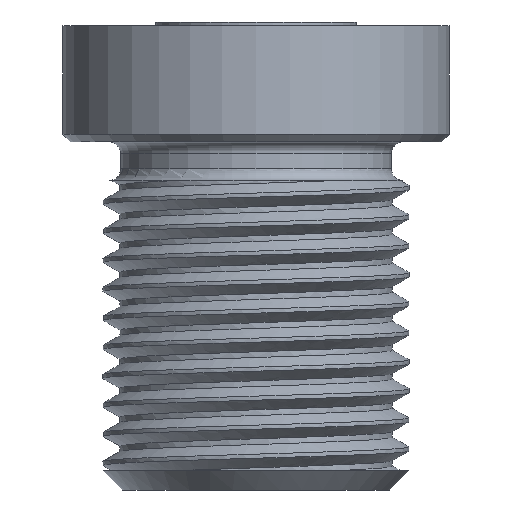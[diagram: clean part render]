
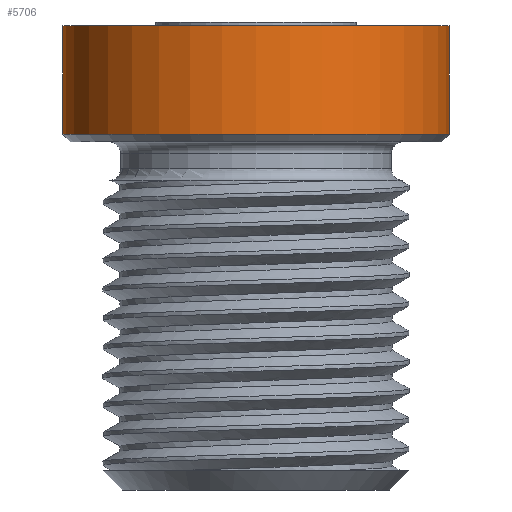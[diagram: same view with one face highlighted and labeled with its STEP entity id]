
A CAD part, front view. The second image highlights one B-rep face of the part: STEP entity #5706.
In plain terms, the highlighted cylindrical face has radius 5 mm (diameter 10 mm), a full revolution.
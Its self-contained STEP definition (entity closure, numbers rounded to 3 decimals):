
#368=FACE_OUTER_BOUND('',#698,.T.);
#698=EDGE_LOOP('',(#3988,#3989,#3990,#3991));
#1026=CIRCLE('',#6055,5.);
#1029=CIRCLE('',#6060,5.);
#1567=LINE('',#8507,#1950);
#1950=VECTOR('',#6251,5.);
#2364=VERTEX_POINT('',#8496);
#2367=VERTEX_POINT('',#8505);
#2996=EDGE_CURVE('',#2364,#2364,#1026,.T.);
#3000=EDGE_CURVE('',#2367,#2367,#1029,.T.);
#3001=EDGE_CURVE('',#2367,#2364,#1567,.T.);
#3988=ORIENTED_EDGE('',*,*,#3000,.F.);
#3989=ORIENTED_EDGE('',*,*,#3001,.T.);
#3990=ORIENTED_EDGE('',*,*,#2996,.F.);
#3991=ORIENTED_EDGE('',*,*,#3001,.F.);
#5671=CYLINDRICAL_SURFACE('',#6059,5.);
#5706=ADVANCED_FACE('',(#368),#5671,.T.);
#6055=AXIS2_PLACEMENT_3D('',#8497,#6238,#6239);
#6059=AXIS2_PLACEMENT_3D('',#8504,#6247,#6248);
#6060=AXIS2_PLACEMENT_3D('',#8506,#6249,#6250);
#6238=DIRECTION('center_axis',(0.,0.,-1.));
#6239=DIRECTION('ref_axis',(1.,0.,0.));
#6247=DIRECTION('center_axis',(0.,0.,1.));
#6248=DIRECTION('ref_axis',(1.,0.,0.));
#6249=DIRECTION('center_axis',(0.,0.,1.));
#6250=DIRECTION('ref_axis',(1.,0.,0.));
#6251=DIRECTION('',(0.,0.,-1.));
#8496=CARTESIAN_POINT('',(-5.,0.,9.2));
#8497=CARTESIAN_POINT('Origin',(0.,0.,9.2));
#8504=CARTESIAN_POINT('Origin',(0.,0.,0.));
#8505=CARTESIAN_POINT('',(-5.,0.,12.));
#8506=CARTESIAN_POINT('Origin',(0.,0.,12.));
#8507=CARTESIAN_POINT('',(-5.,0.,0.));
